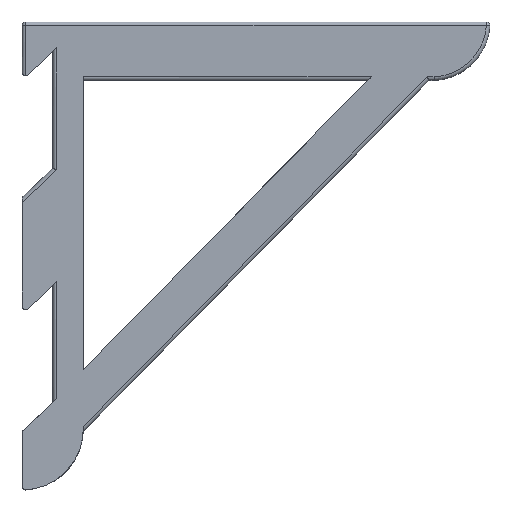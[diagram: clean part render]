
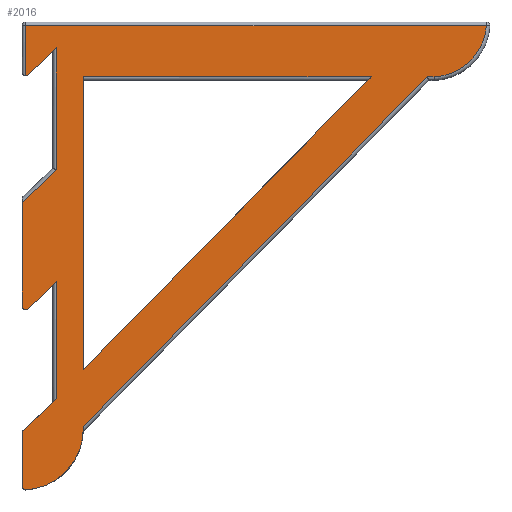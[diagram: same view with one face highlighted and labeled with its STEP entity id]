
A CAD part, top view. The second image highlights one B-rep face of the part: STEP entity #2016.
In plain terms, the highlighted planar face has unit normal (0, 0, 1).
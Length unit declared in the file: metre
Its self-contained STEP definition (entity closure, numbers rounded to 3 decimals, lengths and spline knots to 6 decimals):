
#112=CIRCLE('',#2145,0.021612);
#115=CIRCLE('',#2166,0.00127);
#116=CIRCLE('',#2167,0.00127);
#117=CIRCLE('',#2168,0.00127);
#118=CIRCLE('',#2169,0.019389);
#119=CIRCLE('',#2170,0.00127);
#341=ORIENTED_EDGE('',*,*,#921,.F.);
#342=ORIENTED_EDGE('',*,*,#947,.T.);
#343=ORIENTED_EDGE('',*,*,#948,.T.);
#344=ORIENTED_EDGE('',*,*,#865,.F.);
#345=ORIENTED_EDGE('',*,*,#949,.T.);
#346=ORIENTED_EDGE('',*,*,#932,.F.);
#347=ORIENTED_EDGE('',*,*,#950,.T.);
#348=ORIENTED_EDGE('',*,*,#938,.F.);
#349=ORIENTED_EDGE('',*,*,#951,.T.);
#350=ORIENTED_EDGE('',*,*,#940,.F.);
#351=ORIENTED_EDGE('',*,*,#952,.T.);
#352=ORIENTED_EDGE('',*,*,#899,.T.);
#353=ORIENTED_EDGE('',*,*,#953,.T.);
#354=ORIENTED_EDGE('',*,*,#954,.T.);
#355=ORIENTED_EDGE('',*,*,#955,.T.);
#356=ORIENTED_EDGE('',*,*,#956,.T.);
#357=ORIENTED_EDGE('',*,*,#957,.T.);
#358=ORIENTED_EDGE('',*,*,#958,.T.);
#359=ORIENTED_EDGE('',*,*,#959,.T.);
#360=ORIENTED_EDGE('',*,*,#945,.F.);
#361=ORIENTED_EDGE('',*,*,#891,.F.);
#865=EDGE_CURVE('',#1173,#1174,#1352,.T.);
#891=EDGE_CURVE('',#1199,#1195,#1363,.T.);
#899=EDGE_CURVE('',#1202,#1206,#112,.T.);
#921=EDGE_CURVE('',#1225,#1221,#1387,.T.);
#932=EDGE_CURVE('',#1234,#1230,#1397,.T.);
#938=EDGE_CURVE('',#1238,#1239,#1403,.T.);
#940=EDGE_CURVE('',#1240,#1241,#1404,.T.);
#945=EDGE_CURVE('',#1195,#1244,#1409,.T.);
#947=EDGE_CURVE('',#1225,#1245,#1410,.T.);
#948=EDGE_CURVE('',#1245,#1174,#1411,.F.);
#949=EDGE_CURVE('',#1173,#1230,#115,.T.);
#950=EDGE_CURVE('',#1234,#1239,#1412,.F.);
#951=EDGE_CURVE('',#1238,#1241,#116,.T.);
#952=EDGE_CURVE('',#1240,#1202,#117,.T.);
#953=EDGE_CURVE('',#1206,#1246,#1413,.F.);
#954=EDGE_CURVE('',#1246,#1247,#1414,.T.);
#955=EDGE_CURVE('',#1247,#1248,#118,.T.);
#956=EDGE_CURVE('',#1248,#1249,#1415,.F.);
#957=EDGE_CURVE('',#1249,#1250,#1416,.F.);
#958=EDGE_CURVE('',#1250,#1221,#119,.T.);
#959=EDGE_CURVE('',#1199,#1244,#1417,.T.);
#1173=VERTEX_POINT('',#2893);
#1174=VERTEX_POINT('',#2894);
#1195=VERTEX_POINT('',#2962);
#1199=VERTEX_POINT('',#2969);
#1202=VERTEX_POINT('',#2979);
#1206=VERTEX_POINT('',#2991);
#1221=VERTEX_POINT('',#3031);
#1225=VERTEX_POINT('',#3038);
#1230=VERTEX_POINT('',#3054);
#1234=VERTEX_POINT('',#3061);
#1238=VERTEX_POINT('',#3073);
#1239=VERTEX_POINT('',#3075);
#1240=VERTEX_POINT('',#3079);
#1241=VERTEX_POINT('',#3080);
#1244=VERTEX_POINT('',#3089);
#1245=VERTEX_POINT('',#3093);
#1246=VERTEX_POINT('',#3100);
#1247=VERTEX_POINT('',#3102);
#1248=VERTEX_POINT('',#3104);
#1249=VERTEX_POINT('',#3106);
#1250=VERTEX_POINT('',#3108);
#1352=LINE('',#2892,#1532);
#1363=LINE('',#2970,#1543);
#1387=LINE('',#3039,#1567);
#1397=LINE('',#3062,#1577);
#1403=LINE('',#3074,#1583);
#1404=LINE('',#3078,#1584);
#1409=LINE('',#3088,#1589);
#1410=LINE('',#3092,#1590);
#1411=LINE('',#3094,#1591);
#1412=LINE('',#3096,#1592);
#1413=LINE('',#3099,#1593);
#1414=LINE('',#3101,#1594);
#1415=LINE('',#3105,#1595);
#1416=LINE('',#3107,#1596);
#1417=LINE('',#3110,#1597);
#1532=VECTOR('',#2324,1.);
#1543=VECTOR('',#2343,1.);
#1567=VECTOR('',#2393,1.);
#1577=VECTOR('',#2411,1.);
#1583=VECTOR('',#2421,1.);
#1584=VECTOR('',#2426,1.);
#1589=VECTOR('',#2433,1.);
#1590=VECTOR('',#2438,1.);
#1591=VECTOR('',#2439,1.);
#1592=VECTOR('',#2442,1.);
#1593=VECTOR('',#2447,1.);
#1594=VECTOR('',#2448,1.);
#1595=VECTOR('',#2451,1.);
#1596=VECTOR('',#2452,1.);
#1597=VECTOR('',#2455,1.);
#1715=EDGE_LOOP('',(#341,#342,#343,#344,#345,#346,#347,#348,#349,#350,#351,
#352,#353,#354,#355,#356,#357,#358));
#1716=EDGE_LOOP('',(#359,#360,#361));
#1845=FACE_BOUND('',#1715,.T.);
#1846=FACE_BOUND('',#1716,.T.);
#1969=PLANE('',#2165);
#2016=ADVANCED_FACE('',(#1845,#1846),#1969,.T.);
#2145=AXIS2_PLACEMENT_3D('',#2992,#2355,#2356);
#2165=AXIS2_PLACEMENT_3D('',#3091,#2436,#2437);
#2166=AXIS2_PLACEMENT_3D('',#3095,#2440,#2441);
#2167=AXIS2_PLACEMENT_3D('',#3097,#2443,#2444);
#2168=AXIS2_PLACEMENT_3D('',#3098,#2445,#2446);
#2169=AXIS2_PLACEMENT_3D('',#3103,#2449,#2450);
#2170=AXIS2_PLACEMENT_3D('',#3109,#2453,#2454);
#2324=DIRECTION('',(0.,1.,0.));
#2343=DIRECTION('',(0.,-1.,0.));
#2355=DIRECTION('',(0.,0.,1.));
#2356=DIRECTION('',(1.,0.,0.));
#2393=DIRECTION('',(-0.723,-0.691,0.));
#2411=DIRECTION('',(-0.723,-0.691,0.));
#2421=DIRECTION('',(0.723,0.691,0.));
#2426=DIRECTION('',(0.,1.,0.));
#2433=DIRECTION('',(0.702,0.713,0.));
#2436=DIRECTION('',(0.,0.,1.));
#2437=DIRECTION('',(1.,0.,0.));
#2438=DIRECTION('',(0.,-1.,0.));
#2439=DIRECTION('',(0.723,0.691,0.));
#2440=DIRECTION('',(0.,0.,1.));
#2441=DIRECTION('',(1.,0.,0.));
#2442=DIRECTION('',(0.,1.,0.));
#2443=DIRECTION('',(0.,0.,1.));
#2444=DIRECTION('',(1.,0.,0.));
#2445=DIRECTION('',(0.,0.,1.));
#2446=DIRECTION('',(1.,0.,0.));
#2447=DIRECTION('',(-0.702,-0.713,0.));
#2448=DIRECTION('',(1.,0.,0.));
#2449=DIRECTION('',(0.,0.,1.));
#2450=DIRECTION('',(1.,0.,0.));
#2451=DIRECTION('',(1.,0.,0.));
#2452=DIRECTION('',(0.,1.,0.));
#2453=DIRECTION('',(0.,0.,1.));
#2454=DIRECTION('',(1.,0.,0.));
#2455=DIRECTION('',(1.,0.,0.));
#2892=CARTESIAN_POINT('',(-0.010795,0.005159,0.02159));
#2893=CARTESIAN_POINT('',(-0.010795,-0.017667,0.02159));
#2894=CARTESIAN_POINT('',(-0.010795,0.018881,0.02159));
#2962=CARTESIAN_POINT('',(0.010795,-0.039985,0.02159));
#2969=CARTESIAN_POINT('',(0.010795,0.063183,0.02159));
#2970=CARTESIAN_POINT('',(0.010795,-0.019993,0.02159));
#2979=CARTESIAN_POINT('',(-0.009446,-0.082508,0.02159));
#2991=CARTESIAN_POINT('',(0.010801,-0.060097,0.02159));
#2992=CARTESIAN_POINT('',(-0.010795,-0.060938,0.02159));
#3031=CARTESIAN_POINT('',(-0.008647,0.063965,0.02159));
#3038=CARTESIAN_POINT('',(0.00127,0.073445,0.02159));
#3039=CARTESIAN_POINT('',(-0.005398,0.067072,0.02159));
#3054=CARTESIAN_POINT('',(-0.008647,-0.018585,0.02159));
#3061=CARTESIAN_POINT('',(0.00127,-0.009105,0.02159));
#3062=CARTESIAN_POINT('',(-0.005398,-0.015478,0.02159));
#3073=CARTESIAN_POINT('',(-0.010403,-0.061537,0.02159));
#3074=CARTESIAN_POINT('',(-0.005398,-0.056753,0.02159));
#3075=CARTESIAN_POINT('',(0.00127,-0.05038,0.02159));
#3078=CARTESIAN_POINT('',(-0.010795,-0.072231,0.02159));
#3079=CARTESIAN_POINT('',(-0.010795,-0.08124,0.02159));
#3080=CARTESIAN_POINT('',(-0.010795,-0.062455,0.02159));
#3088=CARTESIAN_POINT('',(0.06096,0.010964,0.02159));
#3089=CARTESIAN_POINT('',(0.112375,0.063183,0.02159));
#3091=CARTESIAN_POINT('',(0.071755,0.,0.02159));
#3092=CARTESIAN_POINT('',(0.00127,0.030956,0.02159));
#3093=CARTESIAN_POINT('',(0.00127,0.030413,0.02159));
#3094=CARTESIAN_POINT('',(0.02291,0.051099,0.02159));
#3095=CARTESIAN_POINT('',(-0.009525,-0.017667,0.02159));
#3096=CARTESIAN_POINT('',(0.00127,0.,0.02159));
#3097=CARTESIAN_POINT('',(-0.009525,-0.062455,0.02159));
#3098=CARTESIAN_POINT('',(-0.009525,-0.08124,0.02159));
#3099=CARTESIAN_POINT('',(0.07085,0.000891,0.02159));
#3100=CARTESIAN_POINT('',(0.132183,0.063183,0.02159));
#3101=CARTESIAN_POINT('',(0.134578,0.063183,0.02159));
#3102=CARTESIAN_POINT('',(0.134549,0.063183,0.02159));
#3103=CARTESIAN_POINT('',(0.133646,0.08255,0.02159));
#3104=CARTESIAN_POINT('',(0.152993,0.08128,0.02159));
#3105=CARTESIAN_POINT('',(0.071755,0.08128,0.02159));
#3106=CARTESIAN_POINT('',(-0.009525,0.08128,0.02159));
#3107=CARTESIAN_POINT('',(-0.009525,0.,0.02159));
#3108=CARTESIAN_POINT('',(-0.009525,0.063613,0.02159));
#3109=CARTESIAN_POINT('',(-0.009525,0.064883,0.02159));
#3110=CARTESIAN_POINT('',(0.111125,0.063183,0.02159));
